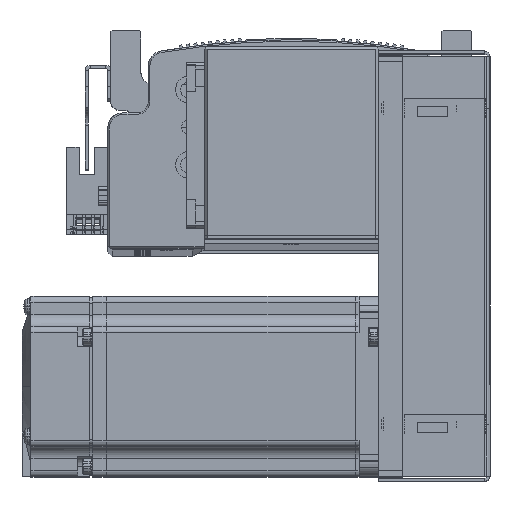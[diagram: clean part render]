
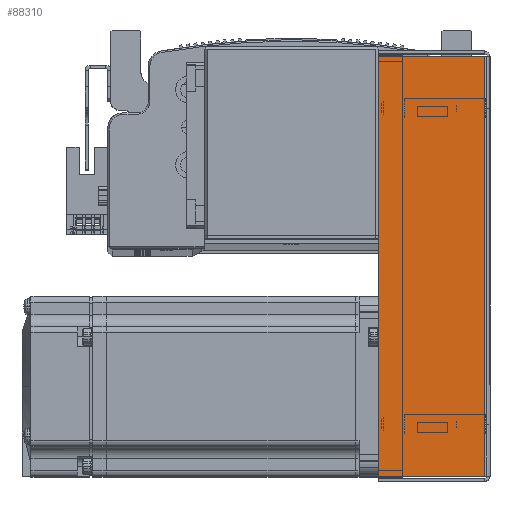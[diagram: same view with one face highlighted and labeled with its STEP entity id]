
A CAD part, top view. The second image highlights one B-rep face of the part: STEP entity #88310.
In plain terms, the highlighted planar face has unit normal (0, 0, 1).
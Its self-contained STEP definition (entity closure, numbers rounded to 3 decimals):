
#6900 = ORIENTED_EDGE ( 'NONE', *, *, #18756, .F. ) ;
#6935 = ORIENTED_EDGE ( 'NONE', *, *, #18966, .T. ) ;
#6977 = ORIENTED_EDGE ( 'NONE', *, *, #18887, .F. ) ;
#7026 = ORIENTED_EDGE ( 'NONE', *, *, #18806, .T. ) ;
#18756 = EDGE_CURVE ( 'NONE', #56671, #56629, #93118, .T. ) ;
#18806 = EDGE_CURVE ( 'NONE', #56694, #56659, #93171, .T. ) ;
#18887 = EDGE_CURVE ( 'NONE', #56629, #56659, #93220, .T. ) ;
#18966 = EDGE_CURVE ( 'NONE', #56671, #56694, #93313, .T. ) ;
#20969 = CARTESIAN_POINT ( 'NONE',  ( -69.793, 36., 33.5 ) ) ;
#20984 = CARTESIAN_POINT ( 'NONE',  ( -69.793, 0.737, 33.5 ) ) ;
#21033 = CARTESIAN_POINT ( 'NONE',  ( 69.793, 0.737, 33.5 ) ) ;
#21060 = CARTESIAN_POINT ( 'NONE',  ( 69.793, 36., 33.5 ) ) ;
#42027 = AXIS2_PLACEMENT_3D ( 'NONE', #53601, #53635, #53633 ) ;
#53595 = PLANE ( 'NONE',  #42027 ) ;
#53601 = CARTESIAN_POINT ( 'NONE',  ( 0., 0., 33.5 ) ) ;
#53633 = DIRECTION ( 'NONE',  ( -1., 0., 0. ) ) ;
#53635 = DIRECTION ( 'NONE',  ( 0., 0., -1. ) ) ;
#56629 = VERTEX_POINT ( 'NONE', #20984 ) ;
#56659 = VERTEX_POINT ( 'NONE', #20969 ) ;
#56671 = VERTEX_POINT ( 'NONE', #21033 ) ;
#56694 = VERTEX_POINT ( 'NONE', #21060 ) ;
#58164 = FACE_OUTER_BOUND ( 'NONE', #76806, .T. ) ;
#76806 = EDGE_LOOP ( 'NONE', ( #6900, #6935, #7026, #6977 ) ) ;
#86540 = CARTESIAN_POINT ( 'NONE',  ( -71.5, 0.737, 33.5 ) ) ;
#86569 = DIRECTION ( 'NONE',  ( -1., 0., 0. ) ) ;
#86622 = CARTESIAN_POINT ( 'NONE',  ( 0., 36., 33.5 ) ) ;
#86623 = DIRECTION ( 'NONE',  ( -1., 0., 0. ) ) ;
#86737 = DIRECTION ( 'NONE',  ( 0., 1., 0. ) ) ;
#86738 = CARTESIAN_POINT ( 'NONE',  ( -69.793, 0., 33.5 ) ) ;
#88310 = ADVANCED_FACE ( 'NONE', ( #58164 ), #53595, .F. ) ;
#93118 = LINE ( 'NONE', #86540, #93133 ) ;
#93133 = VECTOR ( 'NONE', #86569, 1000. ) ;
#93165 = VECTOR ( 'NONE', #86623, 1000. ) ;
#93171 = LINE ( 'NONE', #86622, #93165 ) ;
#93219 = VECTOR ( 'NONE', #86737, 1000. ) ;
#93220 = LINE ( 'NONE', #86738, #93219 ) ;
#93278 = VECTOR ( 'NONE', #93511, 1000. ) ;
#93313 = LINE ( 'NONE', #93483, #93278 ) ;
#93483 = CARTESIAN_POINT ( 'NONE',  ( 69.793, 0., 33.5 ) ) ;
#93511 = DIRECTION ( 'NONE',  ( 0., 1., 0. ) ) ;
